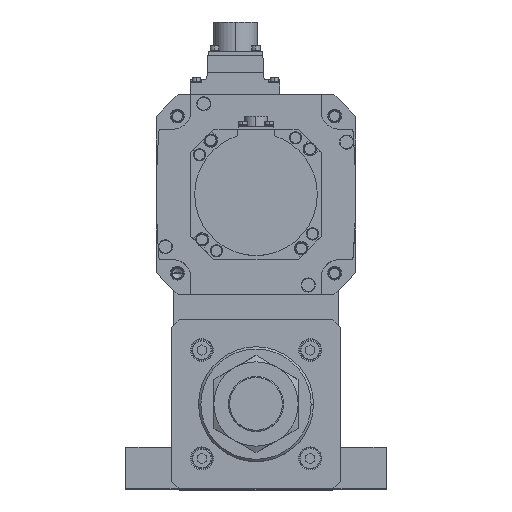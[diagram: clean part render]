
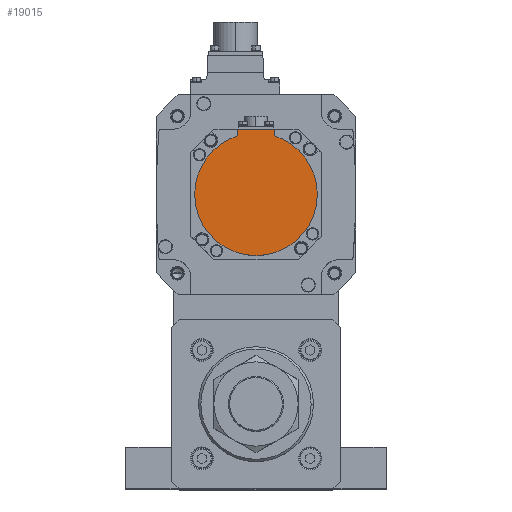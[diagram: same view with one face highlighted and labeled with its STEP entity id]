
A CAD part, top view. The second image highlights one B-rep face of the part: STEP entity #19015.
In plain terms, the highlighted planar face has unit normal (0, 0, 1) as drawn and (0, 0, -1) by its records, which use the part's own axes.
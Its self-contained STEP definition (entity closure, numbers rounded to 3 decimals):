
#2155 = VECTOR ( 'NONE', #29255, 1000. ) ;
#3063 = CARTESIAN_POINT ( 'NONE',  ( 0., 0., -132.5 ) ) ;
#3580 = EDGE_CURVE ( 'NONE', #5200, #26013, #30672, .T. ) ;
#3740 = EDGE_CURVE ( 'NONE', #8774, #33315, #31903, .T. ) ;
#4692 = CARTESIAN_POINT ( 'NONE',  ( -40., 0., -132.5 ) ) ;
#4774 = LINE ( 'NONE', #7591, #12809 ) ;
#4852 = AXIS2_PLACEMENT_3D ( 'NONE', #10492, #34575, #20824 ) ;
#4952 = CARTESIAN_POINT ( 'NONE',  ( 0., -42.5, -132.5 ) ) ;
#5200 = VERTEX_POINT ( 'NONE', #22746 ) ;
#5235 = ORIENTED_EDGE ( 'NONE', *, *, #6571, .T. ) ;
#5782 = DIRECTION ( 'NONE',  ( 0., 0., 1. ) ) ;
#6571 = EDGE_CURVE ( 'NONE', #26013, #8693, #4774, .T. ) ;
#6989 = FACE_OUTER_BOUND ( 'NONE', #17464, .T. ) ;
#7591 = CARTESIAN_POINT ( 'NONE',  ( -12., -40.329, -132.5 ) ) ;
#8693 = VERTEX_POINT ( 'NONE', #27756 ) ;
#8725 = ORIENTED_EDGE ( 'NONE', *, *, #30729, .F. ) ;
#8774 = VERTEX_POINT ( 'NONE', #13772 ) ;
#9821 = ORIENTED_EDGE ( 'NONE', *, *, #33917, .F. ) ;
#10492 = CARTESIAN_POINT ( 'NONE',  ( 0., -1.249, -132.5 ) ) ;
#12809 = VECTOR ( 'NONE', #31917, 1000. ) ;
#12943 = ORIENTED_EDGE ( 'NONE', *, *, #21198, .F. ) ;
#13300 = PLANE ( 'NONE',  #4852 ) ;
#13576 = LINE ( 'NONE', #15575, #2155 ) ;
#13772 = CARTESIAN_POINT ( 'NONE',  ( 40., 0., -132.5 ) ) ;
#14155 = CARTESIAN_POINT ( 'NONE',  ( 12., -38.158, -132.5 ) ) ;
#15575 = CARTESIAN_POINT ( 'NONE',  ( 12., -1.249, -132.5 ) ) ;
#15732 = AXIS2_PLACEMENT_3D ( 'NONE', #3063, #32273, #21918 ) ;
#15856 = CARTESIAN_POINT ( 'NONE',  ( -12., -42.5, -132.5 ) ) ;
#16580 = CARTESIAN_POINT ( 'NONE',  ( 0., 0., -132.5 ) ) ;
#16661 = CARTESIAN_POINT ( 'NONE',  ( 0., 0., -132.5 ) ) ;
#17464 = EDGE_LOOP ( 'NONE', ( #5235, #8725, #18006, #9821, #12943, #33091 ) ) ;
#18006 = ORIENTED_EDGE ( 'NONE', *, *, #3740, .F. ) ;
#19015 = ADVANCED_FACE ( 'NONE', ( #6989 ), #13300, .F. ) ;
#19438 = DIRECTION ( 'NONE',  ( 1., 0., 0. ) ) ;
#20824 = DIRECTION ( 'NONE',  ( 1., 0., 0. ) ) ;
#20872 = DIRECTION ( 'NONE',  ( -1., 0., 0. ) ) ;
#21198 = EDGE_CURVE ( 'NONE', #5200, #25587, #13576, .T. ) ;
#21807 = CIRCLE ( 'NONE', #21942, 40. ) ;
#21918 = DIRECTION ( 'NONE',  ( 1., 0., 0. ) ) ;
#21942 = AXIS2_PLACEMENT_3D ( 'NONE', #16580, #5782, #19438 ) ;
#22746 = CARTESIAN_POINT ( 'NONE',  ( 12., -42.5, -132.5 ) ) ;
#25587 = VERTEX_POINT ( 'NONE', #14155 ) ;
#26013 = VERTEX_POINT ( 'NONE', #15856 ) ;
#26523 = AXIS2_PLACEMENT_3D ( 'NONE', #16661, #30239, #30013 ) ;
#27756 = CARTESIAN_POINT ( 'NONE',  ( -12., -38.158, -132.5 ) ) ;
#29255 = DIRECTION ( 'NONE',  ( 0., 1., 0. ) ) ;
#29831 = VECTOR ( 'NONE', #20872, 1000. ) ;
#30013 = DIRECTION ( 'NONE',  ( 1., 0., 0. ) ) ;
#30239 = DIRECTION ( 'NONE',  ( 0., 0., 1. ) ) ;
#30437 = CIRCLE ( 'NONE', #26523, 40. ) ;
#30672 = LINE ( 'NONE', #4952, #29831 ) ;
#30729 = EDGE_CURVE ( 'NONE', #33315, #8693, #21807, .T. ) ;
#31903 = CIRCLE ( 'NONE', #15732, 40. ) ;
#31917 = DIRECTION ( 'NONE',  ( 0., 1., 0. ) ) ;
#32273 = DIRECTION ( 'NONE',  ( 0., 0., 1. ) ) ;
#33091 = ORIENTED_EDGE ( 'NONE', *, *, #3580, .T. ) ;
#33315 = VERTEX_POINT ( 'NONE', #4692 ) ;
#33917 = EDGE_CURVE ( 'NONE', #25587, #8774, #30437, .T. ) ;
#34575 = DIRECTION ( 'NONE',  ( 0., 0., 1. ) ) ;
